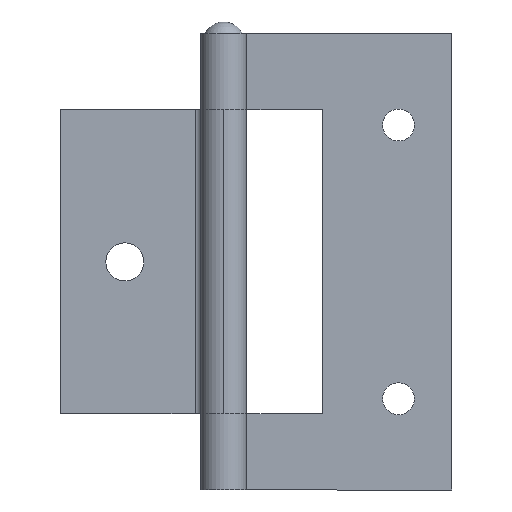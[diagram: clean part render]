
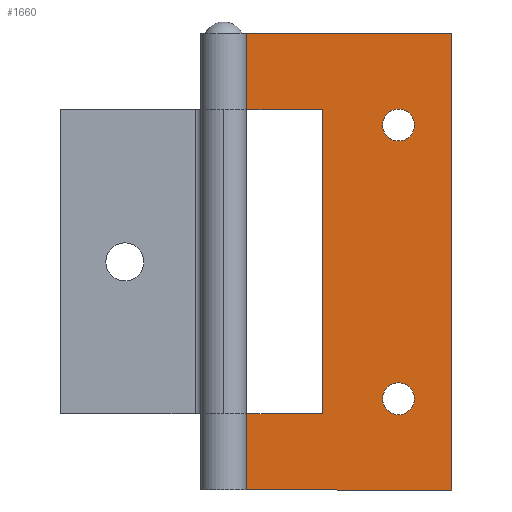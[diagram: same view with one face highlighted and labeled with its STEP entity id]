
A CAD part, front view. The second image highlights one B-rep face of the part: STEP entity #1660.
In plain terms, the highlighted planar face has unit normal (0, -1, 0).
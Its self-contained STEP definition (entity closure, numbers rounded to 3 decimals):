
#1036=CARTESIAN_POINT('',(0.0,1.5,0.0));
#1037=VERTEX_POINT('',#1036);
#1045=CARTESIAN_POINT('',(0.0,1.5,10.0));
#1046=VERTEX_POINT('',#1045);
#1047=CARTESIAN_POINT('',(0.0,1.5,10.0));
#1048=DIRECTION('',(0.0,0.0,-1.0));
#1049=VECTOR('',#1048,10.0);
#1050=LINE('',#1047,#1049);
#1051=EDGE_CURVE('',#1046,#1037,#1050,.T.);
#1120=CARTESIAN_POINT('',(0.0,1.5,50.0));
#1121=VERTEX_POINT('',#1120);
#1129=CARTESIAN_POINT('',(0.0,1.5,60.0));
#1130=VERTEX_POINT('',#1129);
#1131=CARTESIAN_POINT('',(0.0,1.5,60.0));
#1132=DIRECTION('',(0.0,0.0,-1.0));
#1133=VECTOR('',#1132,10.0);
#1134=LINE('',#1131,#1133);
#1135=EDGE_CURVE('',#1130,#1121,#1134,.T.);
#1194=CARTESIAN_POINT('',(25.1,1.5,48.0));
#1195=VERTEX_POINT('',#1194);
#1204=CARTESIAN_POINT('',(20.9,1.5,48.0));
#1205=VERTEX_POINT('',#1204);
#1206=CARTESIAN_POINT('',(23.0,1.5,48.0));
#1207=DIRECTION('',(0.0,1.0,0.0));
#1208=DIRECTION('',(1.0,0.0,0.0));
#1209=AXIS2_PLACEMENT_3D('',#1206,#1207,#1208);
#1210=CIRCLE('',#1209,2.1);
#1211=EDGE_CURVE('',#1205,#1195,#1210,.T.);
#1236=CARTESIAN_POINT('',(25.1,1.5,12.0));
#1237=VERTEX_POINT('',#1236);
#1246=CARTESIAN_POINT('',(20.9,1.5,12.0));
#1247=VERTEX_POINT('',#1246);
#1248=CARTESIAN_POINT('',(23.0,1.5,12.0));
#1249=DIRECTION('',(0.0,1.0,0.0));
#1250=DIRECTION('',(1.0,0.0,0.0));
#1251=AXIS2_PLACEMENT_3D('',#1248,#1249,#1250);
#1252=CIRCLE('',#1251,2.1);
#1253=EDGE_CURVE('',#1247,#1237,#1252,.T.);
#1287=CARTESIAN_POINT('',(23.0,1.5,12.0));
#1288=DIRECTION('',(0.0,1.0,0.0));
#1289=DIRECTION('',(1.0,0.0,0.0));
#1290=AXIS2_PLACEMENT_3D('',#1287,#1288,#1289);
#1291=CIRCLE('',#1290,2.1);
#1292=EDGE_CURVE('',#1237,#1247,#1291,.T.);
#1311=CARTESIAN_POINT('',(23.0,1.5,48.0));
#1312=DIRECTION('',(0.0,1.0,0.0));
#1313=DIRECTION('',(1.0,0.0,0.0));
#1314=AXIS2_PLACEMENT_3D('',#1311,#1312,#1313);
#1315=CIRCLE('',#1314,2.1);
#1316=EDGE_CURVE('',#1195,#1205,#1315,.T.);
#1326=CARTESIAN_POINT('',(13.0,1.5,10.0));
#1327=VERTEX_POINT('',#1326);
#1328=CARTESIAN_POINT('',(13.0,1.5,10.0));
#1329=DIRECTION('',(-1.0,0.0,0.0));
#1330=VECTOR('',#1329,13.0);
#1331=LINE('',#1328,#1330);
#1332=EDGE_CURVE('',#1327,#1046,#1331,.T.);
#1382=CARTESIAN_POINT('',(13.0,1.5,50.0));
#1383=VERTEX_POINT('',#1382);
#1384=CARTESIAN_POINT('',(0.0,1.5,50.0));
#1385=DIRECTION('',(1.0,0.0,0.0));
#1386=VECTOR('',#1385,13.0);
#1387=LINE('',#1384,#1386);
#1388=EDGE_CURVE('',#1121,#1383,#1387,.T.);
#1438=CARTESIAN_POINT('',(13.0,1.5,50.0));
#1439=DIRECTION('',(0.0,0.0,-1.0));
#1440=VECTOR('',#1439,40.0);
#1441=LINE('',#1438,#1440);
#1442=EDGE_CURVE('',#1383,#1327,#1441,.T.);
#1618=CARTESIAN_POINT('',(0.0,1.5,60.0));
#1619=DIRECTION('',(0.0,-1.0,0.0));
#1620=DIRECTION('',(0.0,0.0,-1.0));
#1621=AXIS2_PLACEMENT_3D('',#1618,#1619,#1620);
#1622=PLANE('',#1621);
#1623=ORIENTED_EDGE('',*,*,#1332,.T.);
#1624=ORIENTED_EDGE('',*,*,#1051,.T.);
#1625=CARTESIAN_POINT('',(30.0,1.5,0.));
#1626=VERTEX_POINT('',#1625);
#1627=CARTESIAN_POINT('',(0.0,1.5,0.0));
#1628=DIRECTION('',(1.0,0.0,0.0));
#1629=VECTOR('',#1628,30.0);
#1630=LINE('',#1627,#1629);
#1631=EDGE_CURVE('',#1037,#1626,#1630,.T.);
#1632=ORIENTED_EDGE('',*,*,#1631,.T.);
#1633=CARTESIAN_POINT('',(30.0,1.5,60.));
#1634=VERTEX_POINT('',#1633);
#1635=CARTESIAN_POINT('',(30.0,1.5,60.));
#1636=DIRECTION('',(0.0,0.0,-1.0));
#1637=VECTOR('',#1636,60.0);
#1638=LINE('',#1635,#1637);
#1639=EDGE_CURVE('',#1634,#1626,#1638,.T.);
#1640=ORIENTED_EDGE('',*,*,#1639,.F.);
#1641=CARTESIAN_POINT('',(0.0,1.5,60.0));
#1642=DIRECTION('',(1.0,0.0,0.0));
#1643=VECTOR('',#1642,30.0);
#1644=LINE('',#1641,#1643);
#1645=EDGE_CURVE('',#1130,#1634,#1644,.T.);
#1646=ORIENTED_EDGE('',*,*,#1645,.F.);
#1647=ORIENTED_EDGE('',*,*,#1135,.T.);
#1648=ORIENTED_EDGE('',*,*,#1388,.T.);
#1649=ORIENTED_EDGE('',*,*,#1442,.T.);
#1650=EDGE_LOOP('',(#1623,#1624,#1632,#1640,#1646,#1647,#1648,#1649));
#1651=FACE_OUTER_BOUND('',#1650,.T.);
#1652=ORIENTED_EDGE('',*,*,#1292,.T.);
#1653=ORIENTED_EDGE('',*,*,#1253,.T.);
#1654=EDGE_LOOP('',(#1652,#1653));
#1655=FACE_BOUND('',#1654,.T.);
#1656=ORIENTED_EDGE('',*,*,#1316,.T.);
#1657=ORIENTED_EDGE('',*,*,#1211,.T.);
#1658=EDGE_LOOP('',(#1656,#1657));
#1659=FACE_BOUND('',#1658,.T.);
#1660=ADVANCED_FACE('',(#1651,#1655,#1659),#1622,.T.);
